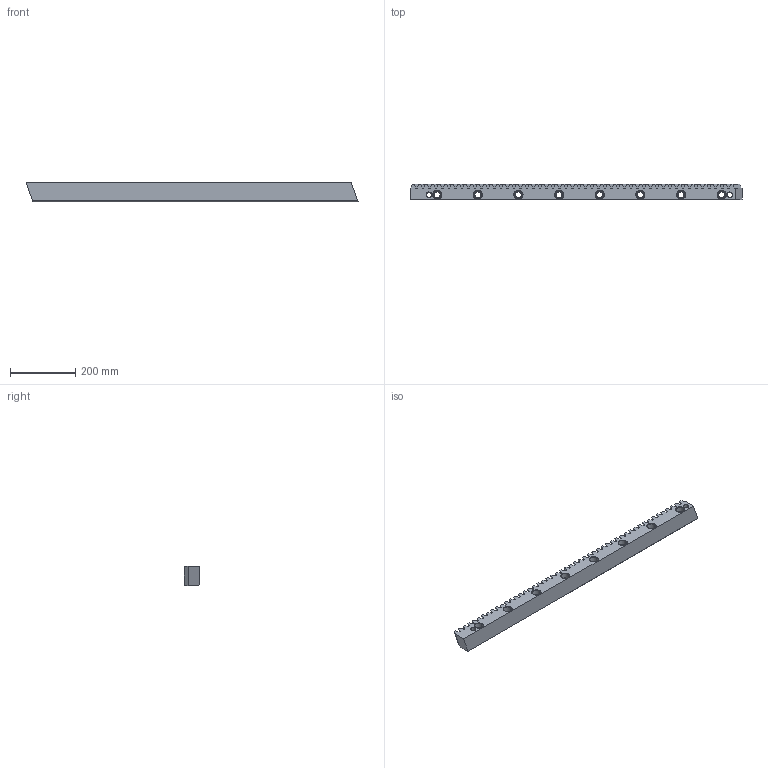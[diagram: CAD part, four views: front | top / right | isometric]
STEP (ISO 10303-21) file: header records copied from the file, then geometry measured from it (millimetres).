
FILE_DESCRIPTION (( 'STEP AP214' ), '1' );
FILE_NAME ('1HR35R060100H.STEP', '2021-12-06T10:05:24', ( '' ), ( '' ), 'SwSTEP 2.0', 'SolidWorks 2021', '' );
FILE_SCHEMA (( 'AUTOMOTIVE_DESIGN' ));
Length unit declared in the file: millimetre
Products named in the file (1): 1HR35R060100H
Bounding box: 1020.93 x 49 x 59 mm (x, y, z)
Volume: 2327964.9 mm3; surface area: 293110.9 mm2
Topology: 1 solids, 1 shells, 587 faces, 1695 edges, 1118 vertices
Faces by surface type: plane 315, cylinder 236, cone 36
Entity records: 19003 total; most frequent: CARTESIAN_POINT 4601, ORIENTED_EDGE 3390, DIRECTION 2579, EDGE_CURVE 1695, VECTOR 1187, LINE 1187, VERTEX_POINT 1118, AXIS2_PLACEMENT_3D 696
